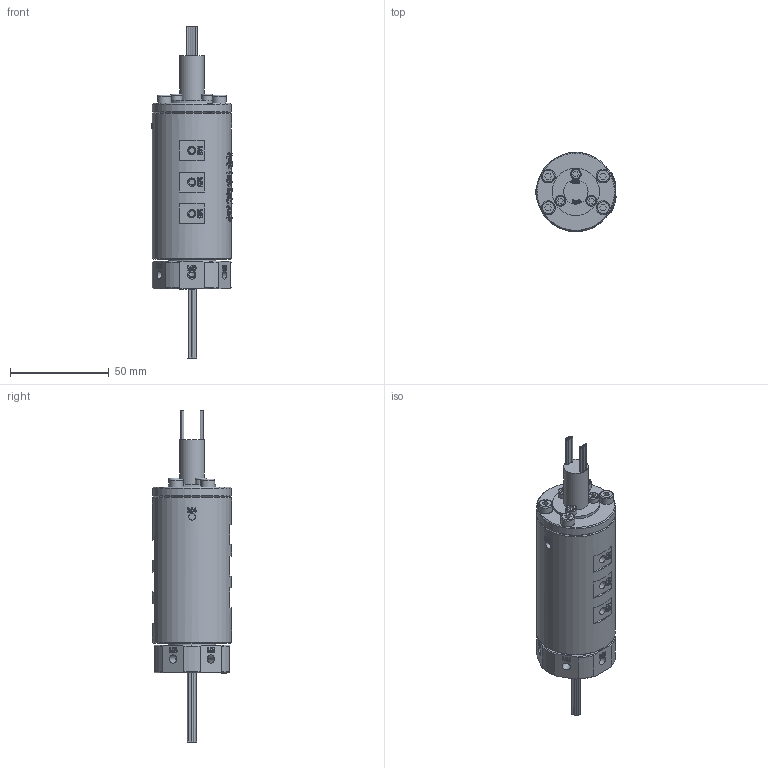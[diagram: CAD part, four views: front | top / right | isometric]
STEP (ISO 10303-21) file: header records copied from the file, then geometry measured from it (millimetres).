
FILE_DESCRIPTION(/* description */ (''),/* implementation_level */ '2;1');
FILE_NAME(/* name */ 'HQ06005-18M.stp',/* time_stamp */ '2025-09-01T15:58:22+08:00',/* author */ (''),/* organization */ (''),/* preprocessor_version */ 'ST-DEVELOPER v16.7',/* originating_system */ 'SIEMENS PLM Software NX 12.0',/* authorisation */ '');
FILE_SCHEMA (('AUTOMOTIVE_DESIGN { 1 0 10303 214 3 1 1 1 }'));
Products named in the file (1): AdmiB44865CDwd80
Bounding box: 40.6 x 40 x 168 mm (x, y, z)
Volume: 118183.3 mm3; surface area: 24219.7 mm2
Topology: 1 solids, 9 shells, 1451 faces, 3850 edges, 2567 vertices
Faces by surface type: plane 701, extrusion 521, cylinder 135, bspline 58, cone 29, torus 7
Full cylindrical faces by diameter (mm): 0.8 x37, 3 x15, 3.4 x9, 4 x10, 4.1 x6, 4.2 x18, 5 x1, 5.5 x3, 6 x1, 7 x4, 12.4 x1, 23.9 x1, 24 x1, 32 x1, 40 x2
Entity records: 52247 total; most frequent: CARTESIAN_POINT 21381, ORIENTED_EDGE 7280, DIRECTION 4055, EDGE_CURVE 3640, B_SPLINE_CURVE_WITH_KNOTS 2814, VERTEX_POINT 2497, EDGE_LOOP 1765, ADVANCED_FACE 1451
